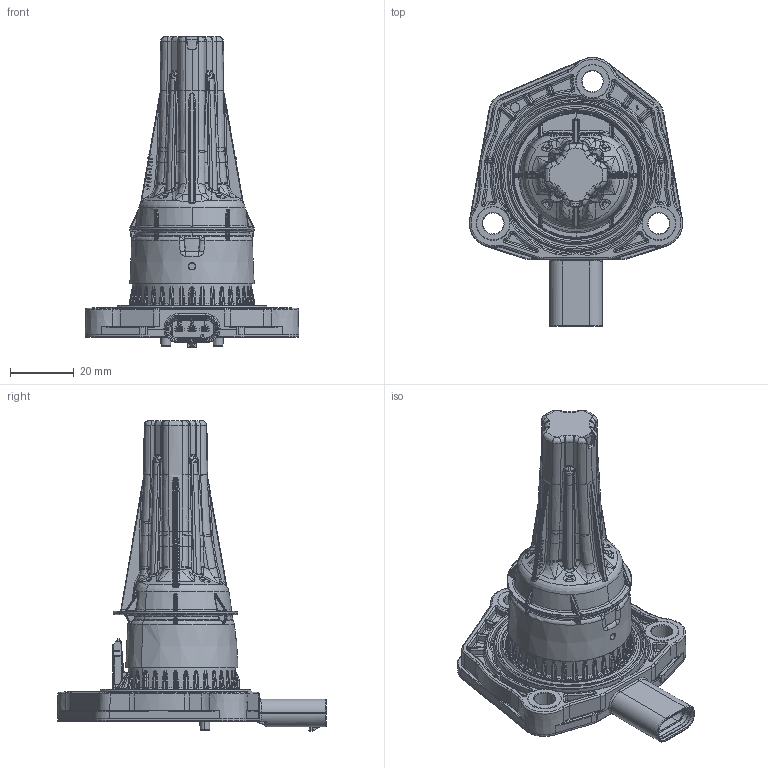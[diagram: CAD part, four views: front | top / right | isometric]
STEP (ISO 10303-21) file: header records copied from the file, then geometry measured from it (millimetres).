
FILE_DESCRIPTION(('CATIA V5 STEP Exchange','CAx-IF Rec.Pracs.--- Model Styling and Organization---1.5--- 2016-08-15','CAx-IF Rec.Pracs.---Supplemental Geometry---1.0---2011-11-01','CAx-IF Rec.Pracs.--- Composite Materials ---1.1---2010-07-15'),'2;1');
FILE_NAME('E:\tmp\ddx\2011226\HELLA_3D_data_Level_sensors_(generation_4)_damping cup_85_mm_015-526-00.stp','2022-01-18T07:40:50+00:00',('none'),('none'),'CATIA Version 5-6 Release 2020 SP3 HF9','CATIA V5 STEP AP214 Edition 3 v2','none');
FILE_SCHEMA(('AUTOMOTIVE_DESIGN { 1 0 10303 214 3 1 1 1 }'));
Products named in the file (1): Part30
Bounding box: 66.96 x 84.35 x 97.4 mm (x, y, z)
Volume: 77212.5 mm3; surface area: 23195.7 mm2
Topology: 1 solids, 2 shells, 4501 faces, 11148 edges, 6588 vertices
Faces by surface type: bspline 1815, plane 1029, cylinder 599, extrusion 573, torus 260, cone 150, sphere 75
Entity records: 234567 total; most frequent: CARTESIAN_POINT 150353, ORIENTED_EDGE 21954, EDGE_CURVE 10977, DIRECTION 8581, B_SPLINE_CURVE_WITH_KNOTS 6825, VERTEX_POINT 6588, EDGE_LOOP 4617, ADVANCED_FACE 4501
